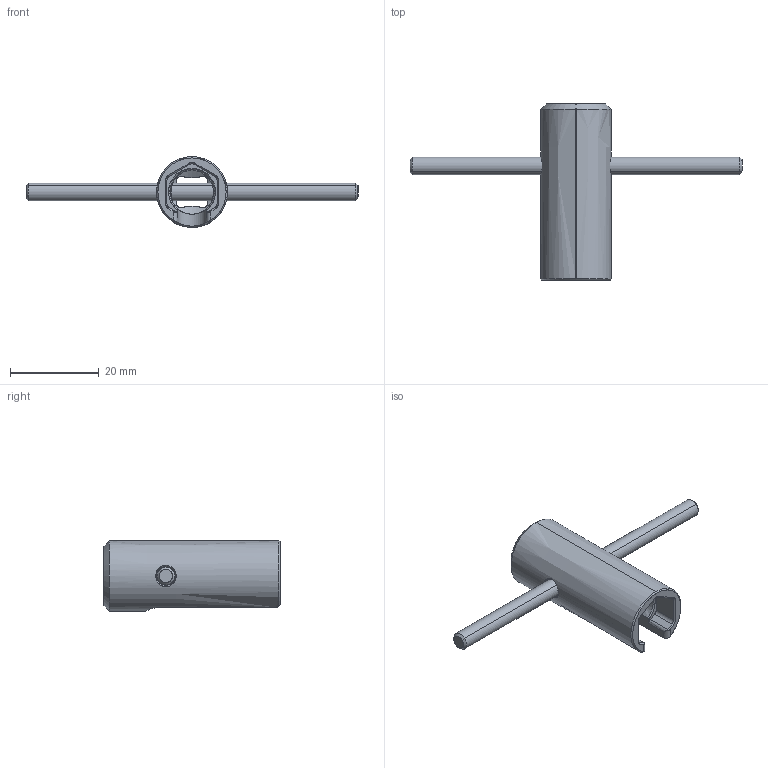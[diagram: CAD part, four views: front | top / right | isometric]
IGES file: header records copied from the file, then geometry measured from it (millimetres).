
Start section: SolidWorks IGES file using analytic representation for surfaces
Global section: file name: C:\Users\emill\Blue Robotics Dropbox\Eldin Miller-Stead\BR-Engineering\PROJECTS\WLP\MODELS\RELEASES\PUBLIC\WLP-11MM-PLUG-WRENCH\WLP-11MM-PLUG-WRENCH-PUBLIC.igs; native system: SolidWorks 2020; preprocessor: SolidWorks 2020; author: emill; date: 210812.170439; units: foot
Bounding box: 75 x 39.8 x 16 mm (x, y, z)
Surface area: 4213.7 mm2 (no closed solid volume)
Topology: 0 solids, 0 shells, 78 faces, 1027 edges, 1027 vertices
Faces by surface type: revolution 44, bspline 34
